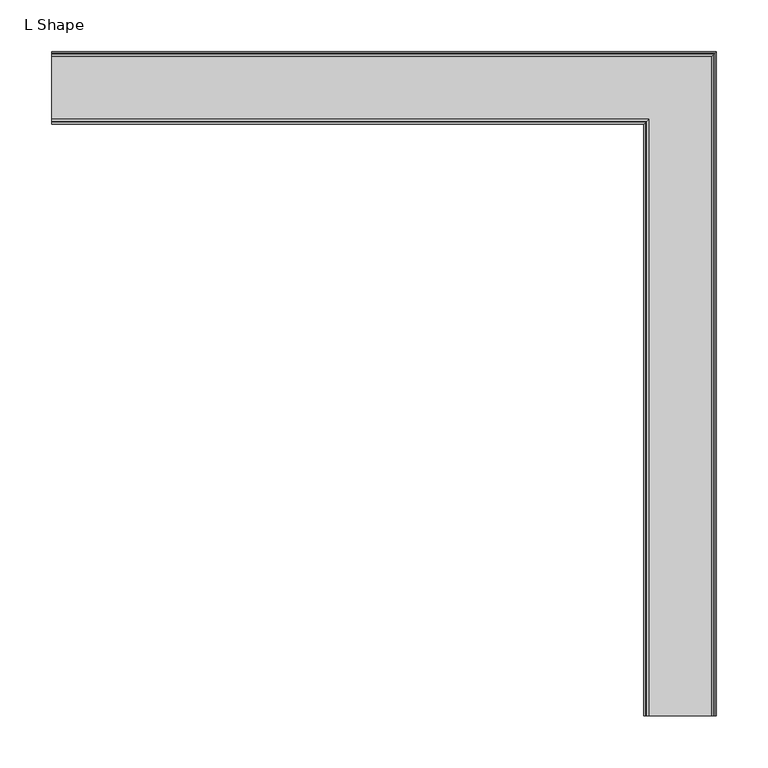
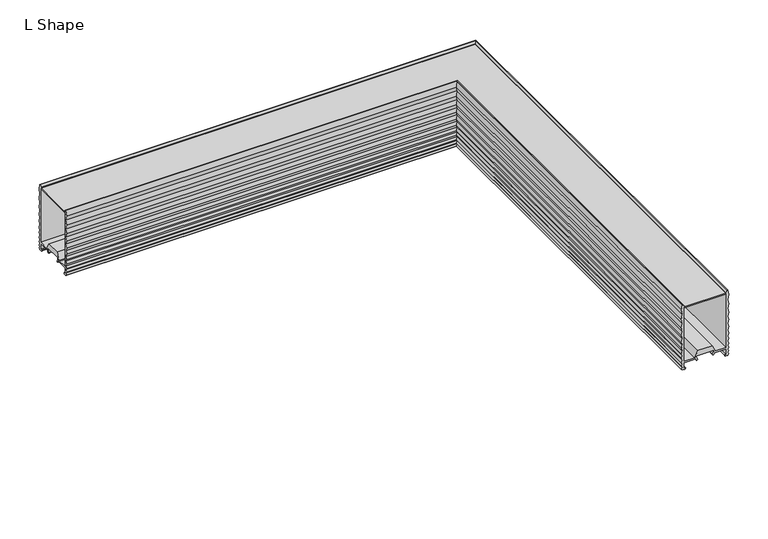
"""IFC4 building model written with IfcOpenShell, lengths in millimetres: light fixture geometry, Lighting-Ceiling-Betacalco-Bellows-L_Shape : L Shape."""

from ifc_helpers import new_model, si_unit, point, frame, frame_2d, origin, place, context, project, spatial, polyline, circle_curve, ellipse_curve, trimmed, segment, composite_curve, outline, extrude, source, transform, mapped, element, save
from ifc_brep_helpers import plane_surface, cylinder_surface, advanced_brep


def l_shape_8de72211(model_context):
    return source(origin(), model_context, "Body", "SolidModel", [
        extrude(outline(composite_curve([segment(trimmed(circle_curve(frame_2d((304.8, 0.0)), 1.5875), [point((303.2125, 0.0))], [point((306.3875, 0.0))], False, "CARTESIAN"), True, "CONTINUOUS"), segment(trimmed(circle_curve(frame_2d((304.8, 0.0)), 1.5875), [point((306.3875, 0.0))], [point((303.2125, 0.0))], False, "CARTESIAN"), True, "CONTINUOUS")], self_intersect=False)), frame((0.0, 0.0, 13.5891701), z_axis=(0.0, 0.0, 1.0), x_axis=(1.0, 0.0, 0.0)), (0.0, 0.0, 1.0), 1.2441624),
        advanced_brep(
        [(273.578, -609.6, 10.668), (291.2870711, -609.6, 10.668), (292.0570321, -609.6, 8.614822), (293.7447356, -609.6, 9.2406239), (292.11399, -609.6, 13.5891701), (292.7358437, -609.6, 14.8333325), (316.8641563, -609.6, 14.8333325), (317.48601, -609.6, 13.5891701), (315.8552644, -609.6, 9.2406239), (317.5429679, -609.6, 8.614822), (318.3129289, -609.6, 10.668), (336.022, -609.6, 10.668), (336.022, -609.6, 2.159), (333.4925845, -609.6, 2.159), (335.4378, -609.6, 0.0), (338.0887943, -609.6, 0.0), (339.9621621, -609.6, 2.0283861), (338.181, -609.6, 4.064), (339.959, -609.6, 6.604), (338.181, -609.6, 9.144), (339.959, -609.6, 12.192), (338.181, -609.6, 15.24), (339.959, -609.6, 18.796), (338.181, -609.6, 22.352), (339.959, -609.6, 26.162), (338.181, -609.6, 29.972), (339.9303587, -609.6, 34.4703509), (338.2082002, -609.6, 39.0460566), (339.9355055, -609.6, 44.1288728), (338.2034215, -609.6, 49.2119386), (339.9393965, -609.6, 54.802389), (338.1997837, -609.6, 60.3929656), (339.9424053, -609.6, 66.491104), (338.1964031, -609.6, 72.5911894), (339.9466792, -609.6, 79.7067168), (338.1931082, -609.6, 86.8195673), (339.9474913, -609.6, 94.186321), (338.1814932, -609.6, 101.6), (337.3877432, -609.6, 101.6), (335.22825, -609.6, 99.2470342), (335.22825, -609.6, 97.7961196), (336.022, -609.6, 97.7961196), (336.022, -609.6, 12.827), (320.2806146, -609.6, 12.827), (315.4222255, -609.6, 22.5473325), (294.1777745, -609.6, 22.5473325), (289.3193854, -609.6, 12.827), (273.578, -609.6, 12.827), (273.578, -609.6, 97.7961196), (274.37175, -609.6, 97.7961196), (274.37175, -609.6, 99.2470342), (272.2122568, -609.6, 101.6), (271.4185068, -609.6, 101.6), (269.6525087, -609.6, 94.186321), (271.4068918, -609.6, 86.8195673), (269.6533208, -609.6, 79.7067168), (271.4035969, -609.6, 72.5911894), (269.6575947, -609.6, 66.491104), (271.4002163, -609.6, 60.3929656), (269.6606035, -609.6, 54.802389), (271.3965785, -609.6, 49.2119386), (269.6644945, -609.6, 44.1288728), (271.3917998, -609.6, 39.0460566), (269.6696413, -609.6, 34.4703509), (271.419, -609.6, 29.972), (269.641, -609.6, 26.162), (271.419, -609.6, 22.352), (269.641, -609.6, 18.796), (271.419, -609.6, 15.24), (269.641, -609.6, 12.192), (271.419, -609.6, 9.144), (269.641, -609.6, 6.604), (271.419, -609.6, 4.064), (269.6378379, -609.6, 2.0283861), (271.5112057, -609.6, 0.0), (274.1622, -609.6, 0.0), (276.1074155, -609.6, 2.159), (273.578, -609.6, 2.159), (-304.8, -31.222, 10.668), (-304.8, -31.222, 2.159), (-304.8, -28.6925845, 2.159), (-304.8, -30.6378, 0.0), (-304.8, -33.2887943, 0.0), (-304.8, -35.1621621, 2.0283861), (-304.8, -33.381, 4.064), (-304.8, -35.159, 6.604), (-304.8, -33.381, 9.144), (-304.8, -35.159, 12.192), (-304.8, -33.381, 15.24), (-304.8, -35.159, 18.796), (-304.8, -33.381, 22.352), (-304.8, -35.159, 26.162), (-304.8, -33.381, 29.972), (-304.8, -35.1303587, 34.4703509), (-304.8, -33.4082002, 39.0460566), (-304.8, -35.1355055, 44.1288728), (-304.8, -33.4034215, 49.2119386), (-304.8, -35.1393965, 54.802389), (-304.8, -33.3997837, 60.3929656), (-304.8, -35.1424053, 66.491104), (-304.8, -33.3964031, 72.5911894), (-304.8, -35.1466792, 79.7067168), (-304.8, -33.3931082, 86.8195673), (-304.8, -35.1474913, 94.186321), (-304.8, -33.3814932, 101.6), (-304.8, -32.5877432, 101.6), (-304.8, -30.42825, 99.2470342), (-304.8, -30.42825, 97.7961196), (-304.8, -31.222, 97.7961196), (-304.8, -31.222, 12.827), (-304.8, -15.4806146, 12.827), (-304.8, -10.6222255, 22.5473325), (-304.8, 10.6222255, 22.5473325), (-304.8, 15.4806146, 12.827), (-304.8, 31.222, 12.827), (-304.8, 31.222, 97.7961196), (-304.8, 30.42825, 97.7961196), (-304.8, 30.42825, 99.2470342), (-304.8, 32.5877432, 101.6), (-304.8, 33.3814932, 101.6), (-304.8, 35.1474913, 94.186321), (-304.8, 33.3931082, 86.8195673), (-304.8, 35.1466792, 79.7067168), (-304.8, 33.3964031, 72.5911894), (-304.8, 35.1424053, 66.491104), (-304.8, 33.3997837, 60.3929656), (-304.8, 35.1393965, 54.802389), (-304.8, 33.4034215, 49.2119386), (-304.8, 35.1355055, 44.1288728), (-304.8, 33.4082002, 39.0460566), (-304.8, 35.1303587, 34.4703509), (-304.8, 33.381, 29.972), (-304.8, 35.159, 26.162), (-304.8, 33.381, 22.352), (-304.8, 35.159, 18.796), (-304.8, 33.381, 15.24), (-304.8, 35.159, 12.192), (-304.8, 33.381, 9.144), (-304.8, 35.159, 6.604), (-304.8, 33.381, 4.064), (-304.8, 35.1621621, 2.0283861), (-304.8, 33.2887943, 0.0), (-304.8, 30.6378, 0.0), (-304.8, 28.6925845, 2.159), (-304.8, 31.222, 2.159), (-304.8, 31.222, 10.668), (-304.8, 13.5129289, 10.668), (-304.8, 12.7429679, 8.614822), (-304.8, 11.0552644, 9.2406239), (-304.8, 12.68601, 13.5891701), (-304.8, 12.0641563, 14.8333325), (-304.8, -12.0641563, 14.8333325), (-304.8, -12.68601, 13.5891701), (-304.8, -11.0552644, 9.2406239), (-304.8, -12.7429679, 8.614822), (-304.8, -13.5129289, 10.668), (292.0570321, -12.7429679, 8.614822), (291.2870711, -13.5129289, 10.668), (293.7447356, -11.0552644, 9.2406239), (292.11399, -12.68601, 13.5891701), (292.7358437, -12.0641563, 14.8333325), (317.48601, 12.68601, 13.5891701), (316.8641563, 12.0641563, 14.8333325), (315.8552644, 11.0552644, 9.2406239), (317.5429679, 12.7429679, 8.614822), (318.3129289, 13.5129289, 10.668), (336.022, 31.222, 2.159), (336.022, 31.222, 10.668), (335.4378, 30.6378, 0.0), (333.4925845, 28.6925845, 2.159), (339.9621621, 35.1621621, 2.0283861), (338.0887943, 33.2887943, 0.0), (338.181, 33.381, 4.064), (339.959, 35.159, 6.604), (338.181, 33.381, 9.144), (339.959, 35.159, 12.192), (338.181, 33.381, 15.24), (339.959, 35.159, 18.796), (338.181, 33.381, 22.352), (339.959, 35.159, 26.162), (338.181, 33.381, 29.972), (339.9303587, 35.1303587, 34.4703509), (338.2082002, 33.4082002, 39.0460566), (339.9355055, 35.1355055, 44.1288728), (338.2034215, 33.4034215, 49.2119386), (339.9393965, 35.1393965, 54.802389), (338.1997837, 33.3997837, 60.3929656), (339.9424053, 35.1424053, 66.491104), (338.1964031, 33.3964031, 72.5911894), (339.9466792, 35.1466792, 79.7067168), (338.1931082, 33.3931082, 86.8195673), (339.9474913, 35.1474913, 94.186321), (338.1814932, 33.3814932, 101.6), (335.22825, 30.42825, 99.2470342), (337.3877432, 32.5877432, 101.6), (335.22825, 30.42825, 97.7961196), (336.022, 31.222, 12.827), (336.022, 31.222, 97.7961196), (315.4222255, 10.6222255, 22.5473325), (320.2806146, 15.4806146, 12.827), (289.3193854, -15.4806146, 12.827), (294.1777745, -10.6222255, 22.5473325), (273.578, -31.222, 97.7961196), (273.578, -31.222, 12.827), (274.37175, -30.42825, 99.2470342), (274.37175, -30.42825, 97.7961196), (272.2122568, -32.5877432, 101.6), (269.6525087, -35.1474913, 94.186321), (271.4185068, -33.3814932, 101.6), (271.4068918, -33.3931082, 86.8195673), (269.6533208, -35.1466792, 79.7067168), (271.4035969, -33.3964031, 72.5911894), (269.6575947, -35.1424053, 66.491104), (271.4002163, -33.3997837, 60.3929656), (269.6606035, -35.1393965, 54.802389), (271.3965785, -33.4034215, 49.2119386), (269.6644945, -35.1355055, 44.1288728), (271.3917998, -33.4082002, 39.0460566), (269.6696413, -35.1303587, 34.4703509), (271.419, -33.381, 29.972), (269.641, -35.159, 26.162), (271.419, -33.381, 22.352), (269.641, -35.159, 18.796), (271.419, -33.381, 15.24), (269.641, -35.159, 12.192), (271.419, -33.381, 9.144), (269.641, -35.159, 6.604), (271.419, -33.381, 4.064), (269.6378379, -35.1621621, 2.0283861), (271.5112057, -33.2887943, 0.0), (276.1074155, -28.6925845, 2.159), (274.1622, -30.6378, 0.0), (273.578, -31.222, 10.668), (273.578, -31.222, 2.159)],
        [
            (0, 1),
            (1, 2),
            (2, 3, circle_curve(frame((292.8997277, -609.6, 8.9308408), z_axis=(0.0, -1.0, 0.0), x_axis=(0.34325550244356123, 0.0, -0.9392420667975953)), 0.9000021)),
            (3, 4),
            (4, 5),
            (5, 6),
            (6, 7),
            (7, 8),
            (8, 9, circle_curve(frame((316.7002723, -609.6, 8.9308408), z_axis=(0.0, -1.0, 0.0), x_axis=(-0.34325550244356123, 0.0, -0.9392420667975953)), 0.9000021)),
            (9, 10),
            (10, 11),
            (11, 12),
            (12, 13),
            (13, 14, circle_curve(frame((335.4378, -609.6, 1.9558), z_axis=(0.0, -1.0, 0.0), x_axis=(0.0, 0.0, -1.0)), 1.9558)),
            (14, 15),
            (15, 16),
            (16, 17),
            (17, 18),
            (18, 19),
            (19, 20),
            (20, 21),
            (21, 22),
            (22, 23),
            (23, 24),
            (24, 25),
            (25, 26),
            (26, 27),
            (27, 28),
            (28, 29),
            (29, 30),
            (30, 31),
            (31, 32),
            (32, 33),
            (33, 34),
            (34, 35),
            (35, 36),
            (36, 37),
            (37, 38),
            (38, 39),
            (39, 40),
            (40, 41),
            (41, 42),
            (42, 43),
            (43, 44),
            (44, 45),
            (45, 46),
            (46, 47),
            (47, 48),
            (48, 49),
            (49, 50),
            (50, 51),
            (51, 52),
            (52, 53),
            (53, 54),
            (54, 55),
            (55, 56),
            (56, 57),
            (57, 58),
            (58, 59),
            (59, 60),
            (60, 61),
            (61, 62),
            (62, 63),
            (63, 64),
            (64, 65),
            (65, 66),
            (66, 67),
            (67, 68),
            (68, 69),
            (69, 70),
            (70, 71),
            (71, 72),
            (72, 73),
            (73, 74),
            (74, 75),
            (75, 76, circle_curve(frame((274.1622, -609.6, 1.9558), z_axis=(0.0, -1.0, 0.0), x_axis=(0.0, 0.0, -1.0)), 1.9558)),
            (76, 77),
            (77, 0),
            (78, 79),
            (79, 80),
            (80, 81, circle_curve(frame((-304.8, -30.6378, 1.9558), z_axis=(-1.0, 0.0, 0.0), x_axis=(0.0, 0.0, -1.0)), 1.9558)),
            (81, 82),
            (82, 83),
            (83, 84),
            (84, 85),
            (85, 86),
            (86, 87),
            (87, 88),
            (88, 89),
            (89, 90),
            (90, 91),
            (91, 92),
            (92, 93),
            (93, 94),
            (94, 95),
            (95, 96),
            (96, 97),
            (97, 98),
            (98, 99),
            (99, 100),
            (100, 101),
            (101, 102),
            (102, 103),
            (103, 104),
            (104, 105),
            (105, 106),
            (106, 107),
            (107, 108),
            (108, 109),
            (109, 110),
            (110, 111),
            (111, 112),
            (112, 113),
            (113, 114),
            (114, 115),
            (115, 116),
            (116, 117),
            (117, 118),
            (118, 119),
            (119, 120),
            (120, 121),
            (121, 122),
            (122, 123),
            (123, 124),
            (124, 125),
            (125, 126),
            (126, 127),
            (127, 128),
            (128, 129),
            (129, 130),
            (130, 131),
            (131, 132),
            (132, 133),
            (133, 134),
            (134, 135),
            (135, 136),
            (136, 137),
            (137, 138),
            (138, 139),
            (139, 140),
            (140, 141),
            (141, 142),
            (142, 143, circle_curve(frame((-304.8, 30.6378, 1.9558), z_axis=(-1.0, 0.0, 0.0), x_axis=(0.0, 0.0, -1.0)), 1.9558)),
            (143, 144),
            (144, 145),
            (145, 146),
            (146, 147),
            (147, 148, circle_curve(frame((-304.8, 11.9002723, 8.9308408), z_axis=(-1.0, 0.0, 0.0), x_axis=(0.0, -0.34325550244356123, -0.9392420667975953)), 0.9000021)),
            (148, 149),
            (149, 150),
            (150, 151),
            (151, 152),
            (152, 153),
            (153, 154, circle_curve(frame((-304.8, -11.9002723, 8.9308408), z_axis=(-1.0, 0.0, 0.0), x_axis=(0.0, 0.34325550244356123, -0.9392420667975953)), 0.9000021)),
            (154, 155),
            (155, 78),
            (156, 157),
            (157, 155),
            (154, 156),
            (158, 156, ellipse_curve(frame((292.8997277, -11.9002723, 8.9308408), z_axis=(-0.7071067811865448, 0.7071067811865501, 0.0), x_axis=(0.7071067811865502, 0.7071067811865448, 0.0)), 1.2727952, 0.9000021)),
            (153, 158),
            (159, 158),
            (152, 159),
            (160, 159),
            (151, 160),
            (161, 162),
            (162, 150),
            (149, 161),
            (163, 161),
            (148, 163),
            (164, 163, ellipse_curve(frame((316.7002723, 11.9002723, 8.9308408), z_axis=(-0.7071067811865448, 0.7071067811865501, 0.0), x_axis=(0.7071067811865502, 0.7071067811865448, 0.0)), 1.2727952, 0.9000021)),
            (147, 164),
            (165, 164),
            (146, 165),
            (166, 167),
            (167, 145),
            (144, 166),
            (168, 169, ellipse_curve(frame((335.4378, 30.6378, 1.9558), z_axis=(-0.7071067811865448, 0.7071067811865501, 0.0), x_axis=(0.7071067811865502, 0.7071067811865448, 0.0)), 2.7659189, 1.9558)),
            (169, 143),
            (142, 168),
            (170, 171),
            (171, 141),
            (140, 170),
            (172, 170),
            (139, 172),
            (173, 172),
            (138, 173),
            (174, 173),
            (137, 174),
            (175, 174),
            (136, 175),
            (176, 175),
            (135, 176),
            (177, 176),
            (134, 177),
            (178, 177),
            (133, 178),
            (179, 178),
            (132, 179),
            (180, 179),
            (131, 180),
            (181, 180),
            (130, 181),
            (182, 181),
            (129, 182),
            (183, 182),
            (128, 183),
            (184, 183),
            (127, 184),
            (185, 184),
            (126, 185),
            (186, 185),
            (125, 186),
            (187, 186),
            (124, 187),
            (188, 187),
            (123, 188),
            (189, 188),
            (122, 189),
            (190, 189),
            (121, 190),
            (191, 190),
            (120, 191),
            (192, 191),
            (119, 192),
            (193, 194),
            (194, 118),
            (117, 193),
            (195, 193),
            (116, 195),
            (196, 197),
            (197, 115),
            (114, 196),
            (198, 199),
            (199, 113),
            (112, 198),
            (200, 201),
            (201, 111),
            (110, 200),
            (202, 203),
            (203, 109),
            (108, 202),
            (204, 205),
            (205, 107),
            (106, 204),
            (206, 204),
            (105, 206),
            (207, 208),
            (208, 104),
            (103, 207),
            (209, 207),
            (102, 209),
            (210, 209),
            (101, 210),
            (211, 210),
            (100, 211),
            (212, 211),
            (99, 212),
            (213, 212),
            (98, 213),
            (214, 213),
            (97, 214),
            (215, 214),
            (96, 215),
            (216, 215),
            (95, 216),
            (217, 216),
            (94, 217),
            (218, 217),
            (93, 218),
            (219, 218),
            (92, 219),
            (220, 219),
            (91, 220),
            (221, 220),
            (90, 221),
            (222, 221),
            (89, 222),
            (223, 222),
            (88, 223),
            (224, 223),
            (87, 224),
            (225, 224),
            (86, 225),
            (226, 225),
            (85, 226),
            (227, 226),
            (84, 227),
            (228, 227),
            (83, 228),
            (229, 228),
            (82, 229),
            (230, 231, ellipse_curve(frame((274.1622, -30.6378, 1.9558), z_axis=(-0.7071067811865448, 0.7071067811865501, 0.0), x_axis=(0.7071067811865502, 0.7071067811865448, 0.0)), 2.7659189, 1.9558)),
            (231, 81),
            (80, 230),
            (232, 233),
            (233, 79),
            (78, 232),
            (0, 232),
            (157, 1),
            (156, 2),
            (158, 3),
            (159, 4),
            (160, 5),
            (162, 6),
            (161, 7),
            (163, 8),
            (164, 9),
            (165, 10),
            (167, 11),
            (166, 12),
            (169, 13),
            (168, 14),
            (171, 15),
            (170, 16),
            (172, 17),
            (173, 18),
            (174, 19),
            (175, 20),
            (176, 21),
            (177, 22),
            (178, 23),
            (179, 24),
            (180, 25),
            (181, 26),
            (182, 27),
            (183, 28),
            (184, 29),
            (185, 30),
            (186, 31),
            (187, 32),
            (188, 33),
            (189, 34),
            (190, 35),
            (191, 36),
            (192, 37),
            (194, 38),
            (193, 39),
            (195, 40),
            (197, 41),
            (196, 42),
            (199, 43),
            (198, 44),
            (201, 45),
            (200, 46),
            (203, 47),
            (202, 48),
            (205, 49),
            (204, 50),
            (206, 51),
            (208, 52),
            (207, 53),
            (209, 54),
            (210, 55),
            (211, 56),
            (212, 57),
            (213, 58),
            (214, 59),
            (215, 60),
            (216, 61),
            (217, 62),
            (218, 63),
            (219, 64),
            (220, 65),
            (221, 66),
            (222, 67),
            (223, 68),
            (224, 69),
            (225, 70),
            (226, 71),
            (227, 72),
            (228, 73),
            (229, 74),
            (231, 75),
            (230, 76),
            (233, 77),
        ],
        [
            plane_surface(frame((304.8, -609.6, 0.0), z_axis=(0.0, -1.0, 0.0), x_axis=(0.0, 0.0, 1.0))),
            plane_surface(frame((-304.8, 0.0, 0.0), z_axis=(-1.0, 0.0, 0.0), x_axis=(0.0, 0.0, 1.0))),
            plane_surface(frame((291.2870711, -13.5129289, 10.668), z_axis=(0.0, -0.9363262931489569, -0.3511311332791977), x_axis=(-1.0, 0.0, 0.0))),
            cylinder_surface(frame((304.8, -11.9002723, 8.9308408), z_axis=(1.0, 0.0, 0.0), x_axis=(0.0, 0.34325550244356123, -0.9392420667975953)), 0.9000021),
            plane_surface(frame((293.7447356, -11.0552644, 9.2406239), z_axis=(0.0, 0.9363262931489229, 0.35113113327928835), x_axis=(-1.0, 0.0, 0.0))),
            plane_surface(frame((292.11399, -12.68601, 13.5891701), z_axis=(0.0, 0.89449260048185, -0.44708275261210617), x_axis=(-1.0, 0.0, 0.0))),
            plane_surface(frame((316.8641563, 12.0641563, 14.8333325), z_axis=(0.0, -0.89449260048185, -0.44708275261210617), x_axis=(-1.0, 0.0, 0.0))),
            plane_surface(frame((317.48601, 12.68601, 13.5891701), z_axis=(0.0, -0.9363262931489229, 0.35113113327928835), x_axis=(-1.0, 0.0, 0.0))),
            cylinder_surface(frame((304.8, 11.9002723, 8.9308408), z_axis=(1.0, 0.0, 0.0), x_axis=(0.0, -0.34325550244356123, -0.9392420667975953)), 0.9000021),
            plane_surface(frame((317.5429679, 12.7429679, 8.614822), z_axis=(0.0, 0.9363262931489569, -0.3511311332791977), x_axis=(-1.0, 0.0, 0.0))),
            plane_surface(frame((336.022, 31.222, 10.668), z_axis=(0.0, -1.0, 0.0), x_axis=(-1.0, 0.0, 0.0))),
            cylinder_surface(frame((304.8, 30.6378, 1.9558), z_axis=(1.0, 0.0, 0.0), x_axis=(0.0, 0.0, -1.0)), 1.9558),
            plane_surface(frame((338.0887943, 33.2887943, 0.0), z_axis=(0.0, 0.7346208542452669, -0.6784778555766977), x_axis=(-1.0, 0.0, 0.0))),
            plane_surface(frame((339.9621621, 35.1621621, 2.0283861), z_axis=(0.0, 0.75257669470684, 0.6585046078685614), x_axis=(-1.0, 0.0, 0.0))),
            plane_surface(frame((338.181, 33.381, 4.064), z_axis=(0.0, 0.8192319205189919, -0.5734623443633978), x_axis=(-1.0, 0.0, 0.0))),
            plane_surface(frame((339.959, 35.159, 6.604), z_axis=(0.0, 0.8192319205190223, 0.5734623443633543), x_axis=(-1.0, 0.0, 0.0))),
            plane_surface(frame((338.181, 33.381, 9.144), z_axis=(0.0, 0.8637789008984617, -0.503871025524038), x_axis=(-1.0, 0.0, 0.0))),
            plane_surface(frame((339.959, 35.159, 12.192), z_axis=(0.0, 0.8637789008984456, 0.5038710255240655), x_axis=(-1.0, 0.0, 0.0))),
            plane_surface(frame((338.181, 33.381, 15.24), z_axis=(0.0, 0.8944271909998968, -0.4472135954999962), x_axis=(-1.0, 0.0, 0.0))),
            plane_surface(frame((339.959, 35.159, 18.796), z_axis=(0.0, 0.8944271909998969, 0.44721359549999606), x_axis=(-1.0, 0.0, 0.0))),
            plane_surface(frame((338.181, 33.381, 22.352), z_axis=(0.0, 0.9061831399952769, -0.4228854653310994), x_axis=(-1.0, 0.0, 0.0))),
            plane_surface(frame((339.959, 35.159, 26.162), z_axis=(0.0, 0.9061831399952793, 0.4228854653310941), x_axis=(-1.0, 0.0, 0.0))),
            plane_surface(frame((338.181, 33.381, 29.972), z_axis=(0.0, 0.9320046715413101, -0.362446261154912), x_axis=(-1.0, 0.0, 0.0))),
            plane_surface(frame((339.9303587, 35.1303587, 34.4703509), z_axis=(0.0, 0.9359069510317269, 0.35224732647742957), x_axis=(-1.0, 0.0, 0.0))),
            plane_surface(frame((338.2082002, 33.4082002, 39.0460566), z_axis=(0.0, 0.9468211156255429, -0.3217604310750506), x_axis=(-1.0, 0.0, 0.0))),
            plane_surface(frame((339.9355055, 35.1355055, 44.1288728), z_axis=(0.0, 0.9465545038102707, 0.3225439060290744), x_axis=(-1.0, 0.0, 0.0))),
            plane_surface(frame((338.2034215, 33.4034215, 49.2119386), z_axis=(0.0, 0.9550153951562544, -0.2965562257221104), x_axis=(-1.0, 0.0, 0.0))),
            plane_surface(frame((339.9393965, 35.1393965, 54.802389), z_axis=(0.0, 0.9548411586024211, 0.29711674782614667), x_axis=(-1.0, 0.0, 0.0))),
            plane_surface(frame((338.1997837, 33.3997837, 60.3929656), z_axis=(0.0, 0.9615116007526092, -0.2747643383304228), x_axis=(-1.0, 0.0, 0.0))),
            plane_surface(frame((339.9424053, 35.1424053, 66.491104), z_axis=(0.0, 0.9613939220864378, 0.27517581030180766), x_axis=(-1.0, 0.0, 0.0))),
            plane_surface(frame((338.1964031, 33.3964031, 72.5911894), z_axis=(0.0, 0.971054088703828, -0.23885970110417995), x_axis=(-1.0, 0.0, 0.0))),
            plane_surface(frame((339.9466792, 35.1466792, 79.7067168), z_axis=(0.0, 0.9709287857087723, 0.23936852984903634), x_axis=(-1.0, 0.0, 0.0))),
            plane_surface(frame((338.1931082, 33.3931082, 86.8195673), z_axis=(0.0, 0.9727944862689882, -0.23166978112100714), x_axis=(-1.0, 0.0, 0.0))),
            plane_surface(frame((339.9474913, 35.1474913, 94.186321), z_axis=(0.0, 0.9727814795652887, 0.23172439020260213), x_axis=(-1.0, 0.0, 0.0))),
            plane_surface(frame((337.3877432, 32.5877432, 101.6), z_axis=(0.0, -0.7367472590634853, 0.6761682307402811), x_axis=(-1.0, 0.0, 0.0))),
            plane_surface(frame((335.22825, 30.42825, 99.2470342), z_axis=(0.0, -1.0, 0.0), x_axis=(-1.0, 0.0, 0.0))),
            plane_surface(frame((336.022, 31.222, 97.7961196), z_axis=(0.0, -1.0, 0.0), x_axis=(-1.0, 0.0, 0.0))),
            plane_surface(frame((320.2806146, 15.4806146, 12.827), z_axis=(0.0, 0.8944926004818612, 0.4470827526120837), x_axis=(-1.0, 0.0, 0.0))),
            plane_surface(frame((294.1777745, -10.6222255, 22.5473325), z_axis=(0.0, -0.8944926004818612, 0.4470827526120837), x_axis=(-1.0, 0.0, 0.0))),
            plane_surface(frame((273.578, -31.222, 12.827), z_axis=(0.0, 1.0, 0.0), x_axis=(-1.0, 0.0, 0.0))),
            plane_surface(frame((274.37175, -30.42825, 97.7961196), z_axis=(0.0, 1.0, 0.0), x_axis=(-1.0, 0.0, 0.0))),
            plane_surface(frame((274.37175, -30.42825, 99.2470342), z_axis=(0.0, 0.7367472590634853, 0.6761682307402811), x_axis=(-1.0, 0.0, 0.0))),
            plane_surface(frame((271.4185068, -33.3814932, 101.6), z_axis=(0.0, -0.9727814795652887, 0.23172439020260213), x_axis=(-1.0, 0.0, 0.0))),
            plane_surface(frame((269.6525087, -35.1474913, 94.186321), z_axis=(0.0, -0.9727944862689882, -0.23166978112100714), x_axis=(-1.0, 0.0, 0.0))),
            plane_surface(frame((271.4068918, -33.3931082, 86.8195673), z_axis=(0.0, -0.9709287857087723, 0.23936852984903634), x_axis=(-1.0, 0.0, 0.0))),
            plane_surface(frame((269.6533208, -35.1466792, 79.7067168), z_axis=(0.0, -0.971054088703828, -0.23885970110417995), x_axis=(-1.0, 0.0, 0.0))),
            plane_surface(frame((271.4035969, -33.3964031, 72.5911894), z_axis=(0.0, -0.9613939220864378, 0.27517581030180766), x_axis=(-1.0, 0.0, 0.0))),
            plane_surface(frame((269.6575947, -35.1424053, 66.491104), z_axis=(0.0, -0.9615116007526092, -0.2747643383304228), x_axis=(-1.0, 0.0, 0.0))),
            plane_surface(frame((271.4002163, -33.3997837, 60.3929656), z_axis=(0.0, -0.9548411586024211, 0.29711674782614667), x_axis=(-1.0, 0.0, 0.0))),
            plane_surface(frame((269.6606035, -35.1393965, 54.802389), z_axis=(0.0, -0.9550153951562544, -0.2965562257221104), x_axis=(-1.0, 0.0, 0.0))),
            plane_surface(frame((271.3965785, -33.4034215, 49.2119386), z_axis=(0.0, -0.9465545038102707, 0.3225439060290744), x_axis=(-1.0, 0.0, 0.0))),
            plane_surface(frame((269.6644945, -35.1355055, 44.1288728), z_axis=(0.0, -0.9468211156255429, -0.3217604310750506), x_axis=(-1.0, 0.0, 0.0))),
            plane_surface(frame((271.3917998, -33.4082002, 39.0460566), z_axis=(0.0, -0.9359069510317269, 0.35224732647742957), x_axis=(-1.0, 0.0, 0.0))),
            plane_surface(frame((269.6696413, -35.1303587, 34.4703509), z_axis=(0.0, -0.9320046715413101, -0.362446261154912), x_axis=(-1.0, 0.0, 0.0))),
            plane_surface(frame((271.419, -33.381, 29.972), z_axis=(0.0, -0.9061831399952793, 0.4228854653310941), x_axis=(-1.0, 0.0, 0.0))),
            plane_surface(frame((269.641, -35.159, 26.162), z_axis=(0.0, -0.9061831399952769, -0.4228854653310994), x_axis=(-1.0, 0.0, 0.0))),
            plane_surface(frame((271.419, -33.381, 22.352), z_axis=(0.0, -0.8944271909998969, 0.44721359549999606), x_axis=(-1.0, 0.0, 0.0))),
            plane_surface(frame((269.641, -35.159, 18.796), z_axis=(0.0, -0.8944271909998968, -0.4472135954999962), x_axis=(-1.0, 0.0, 0.0))),
            plane_surface(frame((271.419, -33.381, 15.24), z_axis=(0.0, -0.8637789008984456, 0.5038710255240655), x_axis=(-1.0, 0.0, 0.0))),
            plane_surface(frame((269.641, -35.159, 12.192), z_axis=(0.0, -0.8637789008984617, -0.503871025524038), x_axis=(-1.0, 0.0, 0.0))),
            plane_surface(frame((271.419, -33.381, 9.144), z_axis=(0.0, -0.8192319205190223, 0.5734623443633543), x_axis=(-1.0, 0.0, 0.0))),
            plane_surface(frame((269.641, -35.159, 6.604), z_axis=(0.0, -0.8192319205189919, -0.5734623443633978), x_axis=(-1.0, 0.0, 0.0))),
            plane_surface(frame((271.419, -33.381, 4.064), z_axis=(0.0, -0.75257669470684, 0.6585046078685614), x_axis=(-1.0, 0.0, 0.0))),
            plane_surface(frame((269.6378379, -35.1621621, 2.0283861), z_axis=(0.0, -0.7346208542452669, -0.6784778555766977), x_axis=(-1.0, 0.0, 0.0))),
            cylinder_surface(frame((304.8, -30.6378, 1.9558), z_axis=(1.0, 0.0, 0.0), x_axis=(0.0, 0.0, -1.0)), 1.9558),
            plane_surface(frame((273.578, -31.222, 2.159), z_axis=(0.0, 1.0, 0.0), x_axis=(-1.0, 0.0, 0.0))),
            plane_surface(frame((273.578, -609.6, 10.668), z_axis=(0.0, 0.0, -1.0), x_axis=(0.0, 1.0, 0.0))),
            plane_surface(frame((291.2870711, -609.6, 10.668), z_axis=(-0.9363262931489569, 0.0, -0.3511311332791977), x_axis=(0.0, 1.0, 0.0))),
            cylinder_surface(frame((292.8997277, -609.6, 8.9308408), z_axis=(0.0, -1.0, 0.0), x_axis=(0.34325550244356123, 0.0, -0.9392420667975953)), 0.9000021),
            plane_surface(frame((293.7447356, -609.6, 9.2406239), z_axis=(0.9363262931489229, 0.0, 0.35113113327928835), x_axis=(0.0, 1.0, 0.0))),
            plane_surface(frame((292.11399, -609.6, 13.5891701), z_axis=(0.89449260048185, 0.0, -0.44708275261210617), x_axis=(0.0, 1.0, 0.0))),
            plane_surface(frame((292.7358437, -609.6, 14.8333325), z_axis=(0.0, 0.0, -1.0), x_axis=(0.0, 1.0, 0.0))),
            plane_surface(frame((316.8641563, -609.6, 14.8333325), z_axis=(-0.89449260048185, 0.0, -0.44708275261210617), x_axis=(0.0, 1.0, 0.0))),
            plane_surface(frame((317.48601, -609.6, 13.5891701), z_axis=(-0.9363262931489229, 0.0, 0.35113113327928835), x_axis=(0.0, 1.0, 0.0))),
            cylinder_surface(frame((316.7002723, -609.6, 8.9308408), z_axis=(0.0, -1.0, 0.0), x_axis=(-0.34325550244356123, 0.0, -0.9392420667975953)), 0.9000021),
            plane_surface(frame((317.5429679, -609.6, 8.614822), z_axis=(0.9363262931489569, 0.0, -0.3511311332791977), x_axis=(0.0, 1.0, 0.0))),
            plane_surface(frame((318.3129289, -609.6, 10.668), z_axis=(0.0, 0.0, -1.0), x_axis=(0.0, 1.0, 0.0))),
            plane_surface(frame((336.022, -609.6, 10.668), z_axis=(-1.0, 0.0, 0.0), x_axis=(0.0, 1.0, 0.0))),
            plane_surface(frame((336.022, -609.6, 2.159), z_axis=(0.0, 0.0, 1.0), x_axis=(0.0, 1.0, 0.0))),
            cylinder_surface(frame((335.4378, -609.6, 1.9558), z_axis=(0.0, -1.0, 0.0), x_axis=(0.0, 0.0, -1.0)), 1.9558),
            plane_surface(frame((335.4378, -609.6, 0.0), z_axis=(0.0, 0.0, -1.0), x_axis=(0.0, 1.0, 0.0))),
            plane_surface(frame((338.0887943, -609.6, 0.0), z_axis=(0.7346208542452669, 0.0, -0.6784778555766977), x_axis=(0.0, 1.0, 0.0))),
            plane_surface(frame((339.9621621, -609.6, 2.0283861), z_axis=(0.75257669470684, 0.0, 0.6585046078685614), x_axis=(0.0, 1.0, 0.0))),
            plane_surface(frame((338.181, -609.6, 4.064), z_axis=(0.8192319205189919, 0.0, -0.5734623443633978), x_axis=(0.0, 1.0, 0.0))),
            plane_surface(frame((339.959, -609.6, 6.604), z_axis=(0.8192319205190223, 0.0, 0.5734623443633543), x_axis=(0.0, 1.0, 0.0))),
            plane_surface(frame((338.181, -609.6, 9.144), z_axis=(0.8637789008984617, 0.0, -0.503871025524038), x_axis=(0.0, 1.0, 0.0))),
            plane_surface(frame((339.959, -609.6, 12.192), z_axis=(0.8637789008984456, 0.0, 0.5038710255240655), x_axis=(0.0, 1.0, 0.0))),
            plane_surface(frame((338.181, -609.6, 15.24), z_axis=(0.8944271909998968, 0.0, -0.4472135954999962), x_axis=(0.0, 1.0, 0.0))),
            plane_surface(frame((339.959, -609.6, 18.796), z_axis=(0.8944271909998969, 0.0, 0.44721359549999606), x_axis=(0.0, 1.0, 0.0))),
            plane_surface(frame((338.181, -609.6, 22.352), z_axis=(0.9061831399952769, 0.0, -0.4228854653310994), x_axis=(0.0, 1.0, 0.0))),
            plane_surface(frame((339.959, -609.6, 26.162), z_axis=(0.9061831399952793, 0.0, 0.4228854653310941), x_axis=(0.0, 1.0, 0.0))),
            plane_surface(frame((338.181, -609.6, 29.972), z_axis=(0.9320046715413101, 0.0, -0.362446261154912), x_axis=(0.0, 1.0, 0.0))),
            plane_surface(frame((339.9303587, -609.6, 34.4703509), z_axis=(0.9359069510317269, 0.0, 0.35224732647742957), x_axis=(0.0, 1.0, 0.0))),
            plane_surface(frame((338.2082002, -609.6, 39.0460566), z_axis=(0.9468211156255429, 0.0, -0.3217604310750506), x_axis=(0.0, 1.0, 0.0))),
            plane_surface(frame((339.9355055, -609.6, 44.1288728), z_axis=(0.9465545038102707, 0.0, 0.3225439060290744), x_axis=(0.0, 1.0, 0.0))),
            plane_surface(frame((338.2034215, -609.6, 49.2119386), z_axis=(0.9550153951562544, 0.0, -0.2965562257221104), x_axis=(0.0, 1.0, 0.0))),
            plane_surface(frame((339.9393965, -609.6, 54.802389), z_axis=(0.9548411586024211, 0.0, 0.29711674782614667), x_axis=(0.0, 1.0, 0.0))),
            plane_surface(frame((338.1997837, -609.6, 60.3929656), z_axis=(0.9615116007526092, 0.0, -0.2747643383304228), x_axis=(0.0, 1.0, 0.0))),
            plane_surface(frame((339.9424053, -609.6, 66.491104), z_axis=(0.9613939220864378, 0.0, 0.27517581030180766), x_axis=(0.0, 1.0, 0.0))),
            plane_surface(frame((338.1964031, -609.6, 72.5911894), z_axis=(0.971054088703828, 0.0, -0.23885970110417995), x_axis=(0.0, 1.0, 0.0))),
            plane_surface(frame((339.9466792, -609.6, 79.7067168), z_axis=(0.9709287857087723, 0.0, 0.23936852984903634), x_axis=(0.0, 1.0, 0.0))),
            plane_surface(frame((338.1931082, -609.6, 86.8195673), z_axis=(0.9727944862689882, 0.0, -0.23166978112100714), x_axis=(0.0, 1.0, 0.0))),
            plane_surface(frame((339.9474913, -609.6, 94.186321), z_axis=(0.9727814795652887, 0.0, 0.23172439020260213), x_axis=(0.0, 1.0, 0.0))),
            plane_surface(frame((338.1814932, -609.6, 101.6), z_axis=(0.0, 0.0, 1.0), x_axis=(0.0, 1.0, 0.0))),
            plane_surface(frame((337.3877432, -609.6, 101.6), z_axis=(-0.7367472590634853, 0.0, 0.6761682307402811), x_axis=(0.0, 1.0, 0.0))),
            plane_surface(frame((335.22825, -609.6, 99.2470342), z_axis=(-1.0, 0.0, 0.0), x_axis=(0.0, 1.0, 0.0))),
            plane_surface(frame((335.22825, -609.6, 97.7961196), z_axis=(0.0, 0.0, -1.0), x_axis=(0.0, 1.0, 0.0))),
            plane_surface(frame((336.022, -609.6, 97.7961196), z_axis=(-1.0, 0.0, 0.0), x_axis=(0.0, 1.0, 0.0))),
            plane_surface(frame((336.022, -609.6, 12.827), z_axis=(0.0, 0.0, 1.0), x_axis=(0.0, 1.0, 0.0))),
            plane_surface(frame((320.2806146, -609.6, 12.827), z_axis=(0.8944926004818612, 0.0, 0.4470827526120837), x_axis=(0.0, 1.0, 0.0))),
            plane_surface(frame((315.4222255, -609.6, 22.5473325), z_axis=(0.0, 0.0, 1.0), x_axis=(0.0, 1.0, 0.0))),
            plane_surface(frame((294.1777745, -609.6, 22.5473325), z_axis=(-0.8944926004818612, 0.0, 0.4470827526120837), x_axis=(0.0, 1.0, 0.0))),
            plane_surface(frame((289.3193854, -609.6, 12.827), z_axis=(0.0, 0.0, 1.0), x_axis=(0.0, 1.0, 0.0))),
            plane_surface(frame((273.578, -609.6, 12.827), z_axis=(1.0, 0.0, 0.0), x_axis=(0.0, 1.0, 0.0))),
            plane_surface(frame((273.578, -609.6, 97.7961196), z_axis=(0.0, 0.0, -1.0), x_axis=(0.0, 1.0, 0.0))),
            plane_surface(frame((274.37175, -609.6, 97.7961196), z_axis=(1.0, 0.0, 0.0), x_axis=(0.0, 1.0, 0.0))),
            plane_surface(frame((274.37175, -609.6, 99.2470342), z_axis=(0.7367472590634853, 0.0, 0.6761682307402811), x_axis=(0.0, 1.0, 0.0))),
            plane_surface(frame((272.2122568, -609.6, 101.6), z_axis=(0.0, 0.0, 1.0), x_axis=(0.0, 1.0, 0.0))),
            plane_surface(frame((271.4185068, -609.6, 101.6), z_axis=(-0.9727814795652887, 0.0, 0.23172439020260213), x_axis=(0.0, 1.0, 0.0))),
            plane_surface(frame((269.6525087, -609.6, 94.186321), z_axis=(-0.9727944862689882, 0.0, -0.23166978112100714), x_axis=(0.0, 1.0, 0.0))),
            plane_surface(frame((271.4068918, -609.6, 86.8195673), z_axis=(-0.9709287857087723, 0.0, 0.23936852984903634), x_axis=(0.0, 1.0, 0.0))),
            plane_surface(frame((269.6533208, -609.6, 79.7067168), z_axis=(-0.971054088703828, 0.0, -0.23885970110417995), x_axis=(0.0, 1.0, 0.0))),
            plane_surface(frame((271.4035969, -609.6, 72.5911894), z_axis=(-0.9613939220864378, 0.0, 0.27517581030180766), x_axis=(0.0, 1.0, 0.0))),
            plane_surface(frame((269.6575947, -609.6, 66.491104), z_axis=(-0.9615116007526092, 0.0, -0.2747643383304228), x_axis=(0.0, 1.0, 0.0))),
            plane_surface(frame((271.4002163, -609.6, 60.3929656), z_axis=(-0.9548411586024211, 0.0, 0.29711674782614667), x_axis=(0.0, 1.0, 0.0))),
            plane_surface(frame((269.6606035, -609.6, 54.802389), z_axis=(-0.9550153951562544, 0.0, -0.2965562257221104), x_axis=(0.0, 1.0, 0.0))),
            plane_surface(frame((271.3965785, -609.6, 49.2119386), z_axis=(-0.9465545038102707, 0.0, 0.3225439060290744), x_axis=(0.0, 1.0, 0.0))),
            plane_surface(frame((269.6644945, -609.6, 44.1288728), z_axis=(-0.9468211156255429, 0.0, -0.3217604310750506), x_axis=(0.0, 1.0, 0.0))),
            plane_surface(frame((271.3917998, -609.6, 39.0460566), z_axis=(-0.9359069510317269, 0.0, 0.35224732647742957), x_axis=(0.0, 1.0, 0.0))),
            plane_surface(frame((269.6696413, -609.6, 34.4703509), z_axis=(-0.9320046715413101, 0.0, -0.362446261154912), x_axis=(0.0, 1.0, 0.0))),
            plane_surface(frame((271.419, -609.6, 29.972), z_axis=(-0.9061831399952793, 0.0, 0.4228854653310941), x_axis=(0.0, 1.0, 0.0))),
            plane_surface(frame((269.641, -609.6, 26.162), z_axis=(-0.9061831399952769, 0.0, -0.4228854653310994), x_axis=(0.0, 1.0, 0.0))),
            plane_surface(frame((271.419, -609.6, 22.352), z_axis=(-0.8944271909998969, 0.0, 0.44721359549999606), x_axis=(0.0, 1.0, 0.0))),
            plane_surface(frame((269.641, -609.6, 18.796), z_axis=(-0.8944271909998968, 0.0, -0.4472135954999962), x_axis=(0.0, 1.0, 0.0))),
            plane_surface(frame((271.419, -609.6, 15.24), z_axis=(-0.8637789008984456, 0.0, 0.5038710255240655), x_axis=(0.0, 1.0, 0.0))),
            plane_surface(frame((269.641, -609.6, 12.192), z_axis=(-0.8637789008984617, 0.0, -0.503871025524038), x_axis=(0.0, 1.0, 0.0))),
            plane_surface(frame((271.419, -609.6, 9.144), z_axis=(-0.8192319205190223, 0.0, 0.5734623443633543), x_axis=(0.0, 1.0, 0.0))),
            plane_surface(frame((269.641, -609.6, 6.604), z_axis=(-0.8192319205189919, 0.0, -0.5734623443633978), x_axis=(0.0, 1.0, 0.0))),
            plane_surface(frame((271.419, -609.6, 4.064), z_axis=(-0.75257669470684, 0.0, 0.6585046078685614), x_axis=(0.0, 1.0, 0.0))),
            plane_surface(frame((269.6378379, -609.6, 2.0283861), z_axis=(-0.7346208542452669, 0.0, -0.6784778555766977), x_axis=(0.0, 1.0, 0.0))),
            plane_surface(frame((271.5112057, -609.6, 0.0), z_axis=(0.0, 0.0, -1.0), x_axis=(0.0, 1.0, 0.0))),
            cylinder_surface(frame((274.1622, -609.6, 1.9558), z_axis=(0.0, -1.0, 0.0), x_axis=(0.0, 0.0, -1.0)), 1.9558),
            plane_surface(frame((276.1074155, -609.6, 2.159), z_axis=(0.0, 0.0, 1.0), x_axis=(0.0, 1.0, 0.0))),
            plane_surface(frame((273.578, -609.6, 2.159), z_axis=(1.0, 0.0, 0.0), x_axis=(0.0, 1.0, 0.0))),
        ],
        [
            (0, [[1, 2, 3, 4, 5, 6, 7, 8, 9, 10, 11, 12, 13, 14, 15, 16, 17, 18, 19, 20, 21, 22, 23, 24, 25, 26, 27, 28, 29, 30, 31, 32, 33, 34, 35, 36, 37, 38, 39, 40, 41, 42, 43, 44, 45, 46, 47, 48, 49, 50, 51, 52, 53, 54, 55, 56, 57, 58, 59, 60, 61, 62, 63, 64, 65, 66, 67, 68, 69, 70, 71, 72, 73, 74, 75, 76, 77, 78]]),
            (1, [[79, 80, 81, 82, 83, 84, 85, 86, 87, 88, 89, 90, 91, 92, 93, 94, 95, 96, 97, 98, 99, 100, 101, 102, 103, 104, 105, 106, 107, 108, 109, 110, 111, 112, 113, 114, 115, 116, 117, 118, 119, 120, 121, 122, 123, 124, 125, 126, 127, 128, 129, 130, 131, 132, 133, 134, 135, 136, 137, 138, 139, 140, 141, 142, 143, 144, 145, 146, 147, 148, 149, 150, 151, 152, 153, 154, 155, 156]]),
            (2, [[157, 158, -155, 159]]),
            (3, [[160, -159, -154, 161]]),
            (4, [[162, -161, -153, 163]]),
            (5, [[164, -163, -152, 165]]),
            (6, [[166, 167, -150, 168]]),
            (7, [[169, -168, -149, 170]]),
            (8, [[171, -170, -148, 172]]),
            (9, [[173, -172, -147, 174]]),
            (10, [[175, 176, -145, 177]]),
            (11, [[178, 179, -143, 180]]),
            (12, [[181, 182, -141, 183]]),
            (13, [[184, -183, -140, 185]]),
            (14, [[186, -185, -139, 187]]),
            (15, [[188, -187, -138, 189]]),
            (16, [[190, -189, -137, 191]]),
            (17, [[192, -191, -136, 193]]),
            (18, [[194, -193, -135, 195]]),
            (19, [[196, -195, -134, 197]]),
            (20, [[198, -197, -133, 199]]),
            (21, [[200, -199, -132, 201]]),
            (22, [[202, -201, -131, 203]]),
            (23, [[204, -203, -130, 205]]),
            (24, [[206, -205, -129, 207]]),
            (25, [[208, -207, -128, 209]]),
            (26, [[210, -209, -127, 211]]),
            (27, [[212, -211, -126, 213]]),
            (28, [[214, -213, -125, 215]]),
            (29, [[216, -215, -124, 217]]),
            (30, [[218, -217, -123, 219]]),
            (31, [[220, -219, -122, 221]]),
            (32, [[222, -221, -121, 223]]),
            (33, [[224, -223, -120, 225]]),
            (34, [[226, 227, -118, 228]]),
            (35, [[229, -228, -117, 230]]),
            (36, [[231, 232, -115, 233]]),
            (37, [[234, 235, -113, 236]]),
            (38, [[237, 238, -111, 239]]),
            (39, [[240, 241, -109, 242]]),
            (40, [[243, 244, -107, 245]]),
            (41, [[246, -245, -106, 247]]),
            (42, [[248, 249, -104, 250]]),
            (43, [[251, -250, -103, 252]]),
            (44, [[253, -252, -102, 254]]),
            (45, [[255, -254, -101, 256]]),
            (46, [[257, -256, -100, 258]]),
            (47, [[259, -258, -99, 260]]),
            (48, [[261, -260, -98, 262]]),
            (49, [[263, -262, -97, 264]]),
            (50, [[265, -264, -96, 266]]),
            (51, [[267, -266, -95, 268]]),
            (52, [[269, -268, -94, 270]]),
            (53, [[271, -270, -93, 272]]),
            (54, [[273, -272, -92, 274]]),
            (55, [[275, -274, -91, 276]]),
            (56, [[277, -276, -90, 278]]),
            (57, [[279, -278, -89, 280]]),
            (58, [[281, -280, -88, 282]]),
            (59, [[283, -282, -87, 284]]),
            (60, [[285, -284, -86, 286]]),
            (61, [[287, -286, -85, 288]]),
            (62, [[289, -288, -84, 290]]),
            (63, [[291, -290, -83, 292]]),
            (64, [[293, 294, -81, 295]]),
            (65, [[296, 297, -79, 298]]),
            (66, [[-1, 299, -298, -156, -158, 300]]),
            (67, [[-2, -300, -157, 301]]),
            (68, [[-3, -301, -160, 302]]),
            (69, [[-4, -302, -162, 303]]),
            (70, [[-5, -303, -164, 304]]),
            (71, [[-6, -304, -165, -151, -167, 305]]),
            (72, [[-7, -305, -166, 306]]),
            (73, [[-8, -306, -169, 307]]),
            (74, [[-9, -307, -171, 308]]),
            (75, [[-10, -308, -173, 309]]),
            (76, [[-11, -309, -174, -146, -176, 310]]),
            (77, [[-12, -310, -175, 311]]),
            (78, [[-13, -311, -177, -144, -179, 312]]),
            (79, [[-14, -312, -178, 313]]),
            (80, [[-15, -313, -180, -142, -182, 314]]),
            (81, [[-16, -314, -181, 315]]),
            (82, [[-17, -315, -184, 316]]),
            (83, [[-18, -316, -186, 317]]),
            (84, [[-19, -317, -188, 318]]),
            (85, [[-20, -318, -190, 319]]),
            (86, [[-21, -319, -192, 320]]),
            (87, [[-22, -320, -194, 321]]),
            (88, [[-23, -321, -196, 322]]),
            (89, [[-24, -322, -198, 323]]),
            (90, [[-25, -323, -200, 324]]),
            (91, [[-26, -324, -202, 325]]),
            (92, [[-27, -325, -204, 326]]),
            (93, [[-28, -326, -206, 327]]),
            (94, [[-29, -327, -208, 328]]),
            (95, [[-30, -328, -210, 329]]),
            (96, [[-31, -329, -212, 330]]),
            (97, [[-32, -330, -214, 331]]),
            (98, [[-33, -331, -216, 332]]),
            (99, [[-34, -332, -218, 333]]),
            (100, [[-35, -333, -220, 334]]),
            (101, [[-36, -334, -222, 335]]),
            (102, [[-37, -335, -224, 336]]),
            (103, [[-38, -336, -225, -119, -227, 337]]),
            (104, [[-39, -337, -226, 338]]),
            (105, [[-40, -338, -229, 339]]),
            (106, [[-41, -339, -230, -116, -232, 340]]),
            (107, [[-42, -340, -231, 341]]),
            (108, [[-43, -341, -233, -114, -235, 342]]),
            (109, [[-44, -342, -234, 343]]),
            (110, [[-45, -343, -236, -112, -238, 344]]),
            (111, [[-46, -344, -237, 345]]),
            (112, [[-47, -345, -239, -110, -241, 346]]),
            (113, [[-48, -346, -240, 347]]),
            (114, [[-49, -347, -242, -108, -244, 348]]),
            (115, [[-50, -348, -243, 349]]),
            (116, [[-51, -349, -246, 350]]),
            (117, [[-52, -350, -247, -105, -249, 351]]),
            (118, [[-53, -351, -248, 352]]),
            (119, [[-54, -352, -251, 353]]),
            (120, [[-55, -353, -253, 354]]),
            (121, [[-56, -354, -255, 355]]),
            (122, [[-57, -355, -257, 356]]),
            (123, [[-58, -356, -259, 357]]),
            (124, [[-59, -357, -261, 358]]),
            (125, [[-60, -358, -263, 359]]),
            (126, [[-61, -359, -265, 360]]),
            (127, [[-62, -360, -267, 361]]),
            (128, [[-63, -361, -269, 362]]),
            (129, [[-64, -362, -271, 363]]),
            (130, [[-65, -363, -273, 364]]),
            (131, [[-66, -364, -275, 365]]),
            (132, [[-67, -365, -277, 366]]),
            (133, [[-68, -366, -279, 367]]),
            (134, [[-69, -367, -281, 368]]),
            (135, [[-70, -368, -283, 369]]),
            (136, [[-71, -369, -285, 370]]),
            (137, [[-72, -370, -287, 371]]),
            (138, [[-73, -371, -289, 372]]),
            (139, [[-74, -372, -291, 373]]),
            (140, [[-75, -373, -292, -82, -294, 374]]),
            (141, [[-76, -374, -293, 375]]),
            (142, [[-77, -375, -295, -80, -297, 376]]),
            (143, [[-78, -376, -296, -299]]),
        ],
    ),
        extrude(outline(polyline([(336.022, -609.6), (273.578, -609.6), (273.578, -31.222), (-304.8, -31.222), (-304.8, 31.222), (336.022, 31.222), (336.022, -609.6)])), frame((0.0, 0.0, 96.3991196), z_axis=(0.0, 0.0, 1.0), x_axis=(1.0, 0.0, 0.0)), (0.0, 0.0, 1.0), 1.397),
    ])


if __name__ == "__main__":
    model = new_model("IFC4")
    model_context = context("Model", 3, world=origin())
    ifc_project = project(units=[si_unit("LENGTHUNIT", "METRE", prefix="MILLI")], contexts=[model_context])
    site = spatial("IfcSite", under=ifc_project)
    building = spatial("IfcBuilding", under=site)
    placement = place(None, origin())
    l_shape_shape = l_shape_8de72211(model_context)
    element("IfcLightFixture", 1, ObjectType="Lighting-Ceiling-Betacalco-Bellows-L_Shape : L Shape", at=placement, inside=building, context=model_context, shape_type="MappedRepresentation", body=[
        mapped(l_shape_shape, transform((0.0, 0.0, 0.0), x_axis=(1.0, 0.0, 0.0), y_axis=(0.0, 1.0, 0.0), z_axis=(0.0, 0.0, 1.0))),
    ])
    save(model, "model.ifc")
